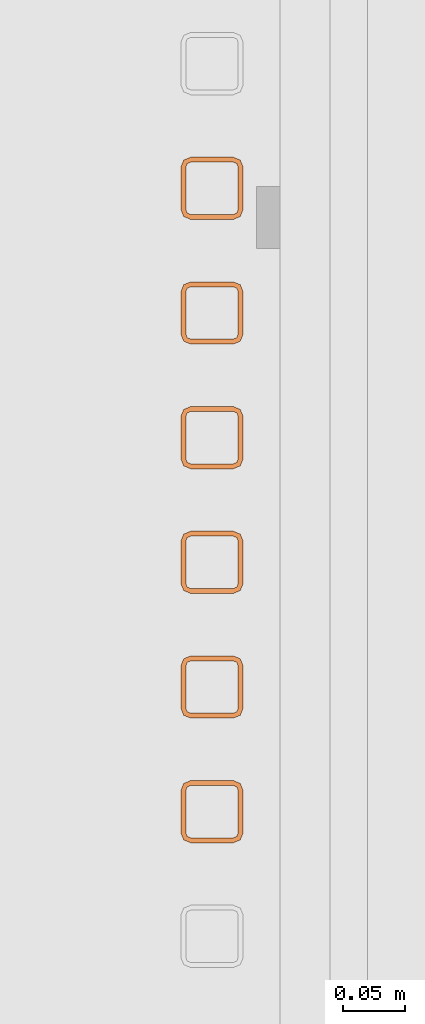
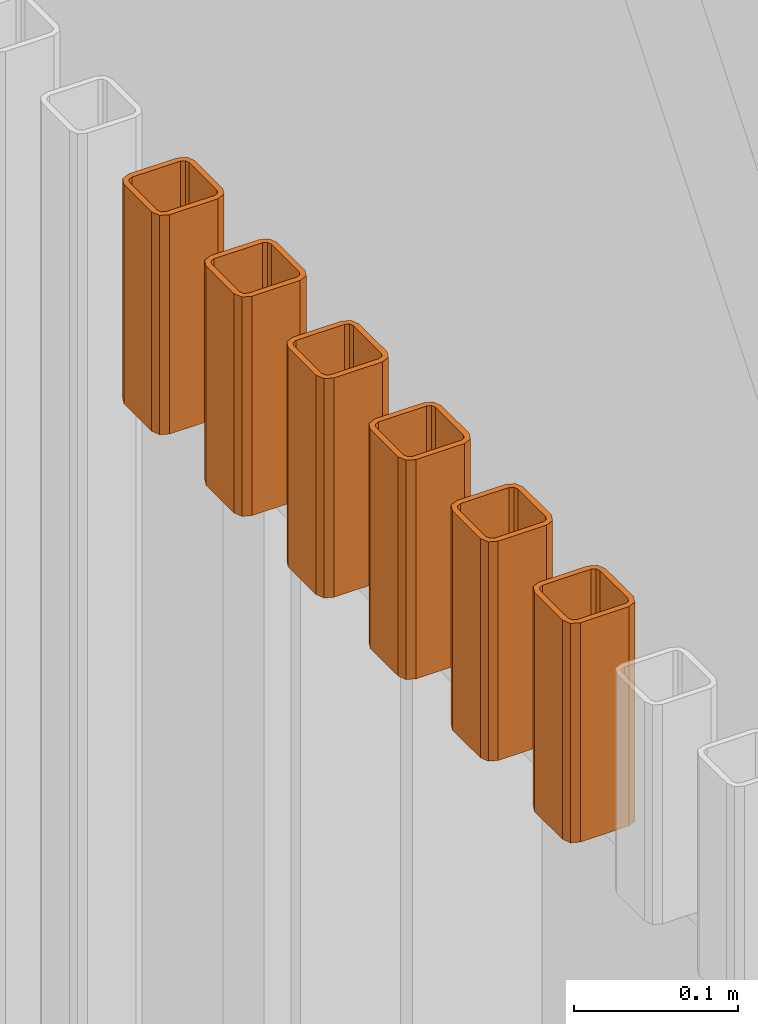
# One storey, part 97 of 112: 6 proxies.
"""IFC2X3 building model written with IfcOpenShell, lengths in millimetres."""

from ifc_helpers import new_model, entity, si_unit, converted_unit, derived_unit, money_unit, direction, frame, origin_with_axes, place, context, subcontext, project, spatial, faceted_brep, source, transform, mapped, material, type_object, element, save


model = new_model("IFC2X3")

# Units and contexts
model_context = context("Model", 3, precision=0.01, world=origin_with_axes(), true_north=direction((0.0, 1.0)))
body_context = subcontext(model_context, "Body", "Model", "MODEL_VIEW")
ifc_project = project(units=[si_unit("LENGTHUNIT", "METRE", prefix="MILLI"), si_unit("AREAUNIT", "SQUARE_METRE"), si_unit("VOLUMEUNIT", "CUBIC_METRE"), converted_unit("PLANEANGLEUNIT", "DEGREE", entity("IfcPlaneAngleMeasure", 0.0174532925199), si_unit("PLANEANGLEUNIT", "RADIAN"), dimensions=[0, 0, 0, 0, 0, 0, 0]), si_unit("SOLIDANGLEUNIT", "STERADIAN"), money_unit("EUR"), converted_unit("TIMEUNIT", "Year", entity("IfcTimeMeasure", 31556926.0), si_unit("TIMEUNIT", "SECOND"), dimensions=[0, 0, 1, 0, 0, 0, 0]), si_unit("MASSUNIT", "GRAM", prefix="KILO"), si_unit("THERMODYNAMICTEMPERATUREUNIT", "DEGREE_CELSIUS"), si_unit("LUMINOUSINTENSITYUNIT", "LUMEN"), si_unit("ENERGYUNIT", "JOULE", prefix="MEGA"), derived_unit("THERMALCONDUCTANCEUNIT", [(si_unit("POWERUNIT", "WATT"), 1), (si_unit("LENGTHUNIT", "METRE"), -1), (si_unit("THERMODYNAMICTEMPERATUREUNIT", "KELVIN"), -1)]), derived_unit("SPECIFICHEATCAPACITYUNIT", [(si_unit("ENERGYUNIT", "JOULE"), 1), (si_unit("MASSUNIT", "GRAM", prefix="KILO"), -1), (si_unit("THERMODYNAMICTEMPERATUREUNIT", "KELVIN"), -1)]), derived_unit("MASSDENSITYUNIT", [(si_unit("MASSUNIT", "GRAM", prefix="KILO"), 1), (si_unit("VOLUMEUNIT", "CUBIC_METRE"), -1)])], contexts=[model_context])

# Site, building, storey
site_placement = place(None, origin_with_axes())
site = spatial("IfcSite", under=ifc_project, at=site_placement, Name="Politse- ja Piirivalveameti ning Päästeameti ühishoone", CompositionType="ELEMENT")
building_placement = place(site_placement, origin_with_axes())
building = spatial("IfcBuilding", under=site, at=building_placement, Name="Politse- ja Piirivalveameti ning Päästeameti ühishoone", CompositionType="ELEMENT")
storey_placement = place(building_placement, origin_with_axes())
storey = spatial("IfcBuildingStorey", under=building, at=storey_placement, Name="Esimene korrus", CompositionType="ELEMENT", Elevation=0.0)

# Proxies
ifc_material = material(Name="ET-05_Teras")
building_element_proxy_type = type_object("IfcBuildingElementProxyType", Name="SHS Cold-Formed Column 23", PredefinedType="NOTDEFINED")
shared_shape = source(origin_with_axes(), body_context, "Body", "Brep", [
    faceted_brep([(17.0, -25.0, 0.0), (17.0, -25.0, 163.0), (-17.0, -25.0, 163.0), (-17.0, -25.0, 0.0), (22.6568542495, -22.6568542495, 0.0), (22.6568542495, -22.6568542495, 163.0), (25.0, -17.0, 163.0), (25.0, 17.0, 163.0), (22.6568542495, 22.6568542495, 163.0), (17.0, 25.0, 163.0), (-17.0, 25.0, 163.0), (-22.6568542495, 22.6568542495, 163.0), (-25.0, 17.0, 163.0), (-25.0, -17.0, 163.0), (-22.6568542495, -22.6568542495, 163.0), (17.0, -21.0, 163.0), (-17.0, -21.0, 163.0), (-19.8284271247, -19.8284271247, 163.0), (-21.0, -17.0, 163.0), (-21.0, 17.0, 163.0), (-19.8284271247, 19.8284271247, 163.0), (-17.0, 21.0, 163.0), (17.0, 21.0, 163.0), (19.8284271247, 19.8284271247, 163.0), (21.0, 17.0, 163.0), (21.0, -17.0, 163.0), (19.8284271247, -19.8284271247, 163.0), (-22.6568542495, -22.6568542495, 0.0), (-25.0, -17.0, 0.0), (-25.0, 17.0, 0.0), (-22.6568542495, 22.6568542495, 0.0), (-17.0, 25.0, 0.0), (17.0, 25.0, 0.0), (22.6568542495, 22.6568542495, 0.0), (25.0, 17.0, 0.0), (25.0, -17.0, 0.0), (17.0, -21.0, 0.0), (19.8284271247, -19.8284271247, 0.0), (21.0, -17.0, 0.0), (21.0, 17.0, 0.0), (19.8284271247, 19.8284271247, 0.0), (17.0, 21.0, 0.0), (-17.0, 21.0, 0.0), (-19.8284271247, 19.8284271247, 0.0), (-21.0, 17.0, 0.0), (-21.0, -17.0, 0.0), (-19.8284271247, -19.8284271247, 0.0), (-17.0, -21.0, 0.0)], [[[0, 1, 2, 3]], [[4, 5, 1, 0]], [[1, 5, 6, 7, 8, 9, 10, 11, 12, 13, 14, 2], [15, 16, 17, 18, 19, 20, 21, 22, 23, 24, 25, 26]], [[3, 2, 14, 27]], [[0, 3, 27, 28, 29, 30, 31, 32, 33, 34, 35, 4], [36, 37, 38, 39, 40, 41, 42, 43, 44, 45, 46, 47]], [[35, 6, 5, 4]], [[34, 7, 6, 35]], [[33, 8, 7, 34]], [[32, 9, 8, 33]], [[31, 10, 9, 32]], [[30, 11, 10, 31]], [[29, 12, 11, 30]], [[28, 13, 12, 29]], [[27, 14, 13, 28]], [[47, 16, 15, 36]], [[46, 17, 16, 47]], [[45, 18, 17, 46]], [[44, 19, 18, 45]], [[43, 20, 19, 44]], [[42, 21, 20, 43]], [[41, 22, 21, 42]], [[40, 23, 22, 41]], [[39, 24, 23, 40]], [[38, 25, 24, 39]], [[37, 26, 25, 38]], [[36, 15, 26, 37]]]),
])
for number, where, z_axis, x_axis in (
    (1, (61085.9088163, 25335.2240928, 2637.0), (0.0, 0.0, 1.0), (1.0, 0.0, 0.0)),
    (2, (61085.9088163, 25235.2240928, 2637.0), (0.0, 0.0, 1.0), (1.0, 0.0, 0.0)),
    (3, (61085.9088163, 25135.2240928, 2637.0), (0.0, 0.0, 1.0), (1.0, 0.0, 0.0)),
    (4, (61085.9088163, 25035.2240928, 2637.0), (0.0, 0.0, 1.0), (1.0, 0.0, 0.0)),
    (5, (61085.9088163, 24935.2240928, 2637.0), (0.0, 0.0, 1.0), (1.0, 0.0, 0.0)),
    (6, (61085.9088163, 24835.2240928, 2637.0), (0.0, 0.0, 1.0), (1.0, 0.0, 0.0)),
):
    element("IfcBuildingElementProxy", number, at=place(storey_placement, frame(where, z_axis=z_axis, x_axis=x_axis)), inside=storey, type_object=building_element_proxy_type, material=ifc_material, Name="Fassaadiribid", context=body_context, shape_type="MappedRepresentation", body=[
        mapped(shared_shape, transform((0.0, 0.0, 0.0))),
    ])

save(model, "model.ifc")
